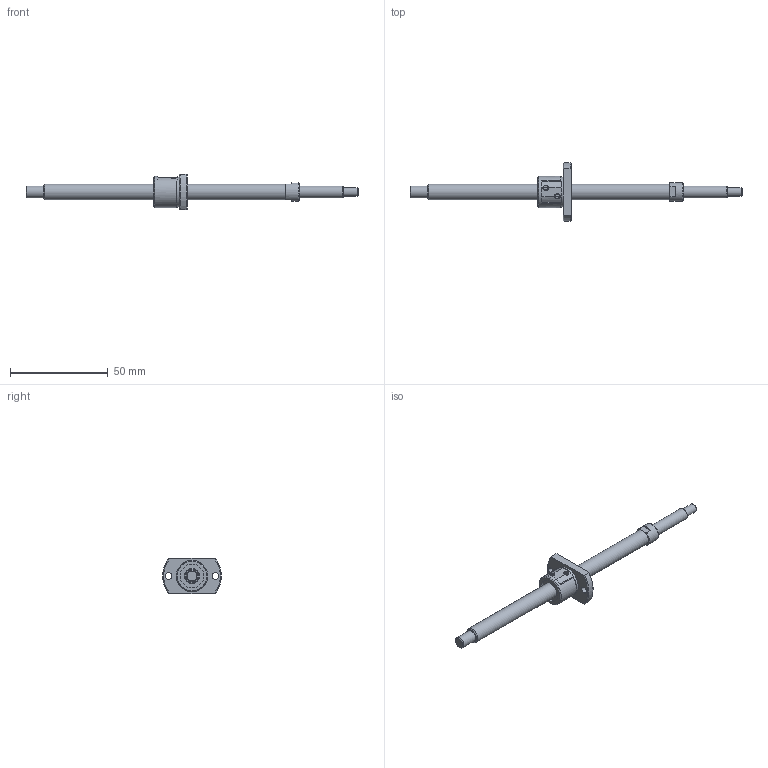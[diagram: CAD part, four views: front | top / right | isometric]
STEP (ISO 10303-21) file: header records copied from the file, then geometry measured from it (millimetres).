
FILE_DESCRIPTION(/* description */ ('STEP AP214'),/* implementation_level */ '2;1');
FILE_NAME(/* name */ 'SG0801-121R170C3C0X(56.5)',/* time_stamp */ '2026-07-21T16:38:44+02:00',/* author */ ('License CC BY-ND 4.0'),/* organization */ ('CADENAS'),/* preprocessor_version */ 'ST-DEVELOPER v20',/* originating_system */ 'PARTsolutions',/* authorisation */ ' ');
FILE_SCHEMA (('AUTOMOTIVE_DESIGN {1 0 10303 214 3 1 1}'));
Length unit declared in the file: millimetre
Products named in the file (3): SG0801-121R170C3C0X(56.5); SG0801-121R170C3C_shaft; SG0801_nut
Assembly tree (2 placements, depth 2):
  SG0801-121R170C3C0X(56.5)
    SG0801-121R170C3C_shaft
    SG0801_nut
Bounding box: 170 x 30 x 18 mm (x, y, z)
Volume: 11204.4 mm3; surface area: 6552.6 mm2
Topology: 2 solids, 2 shells, 77 faces, 187 edges, 122 vertices
Faces by surface type: plane 36, cylinder 26, cone 14, torus 1
Full cylindrical faces by diameter (mm): 3.4 x2, 4.5 x1, 6 x2, 8 x2, 9.5 x1, 12 x2, 15.6 x1, 16 x1
Entity records: 2183 total; most frequent: CARTESIAN_POINT 414, DIRECTION 366, ORIENTED_EDGE 310, EDGE_CURVE 155, AXIS2_PLACEMENT_3D 153, EDGE_LOOP 114, FACE_BOUND 114, VERTEX_POINT 113
